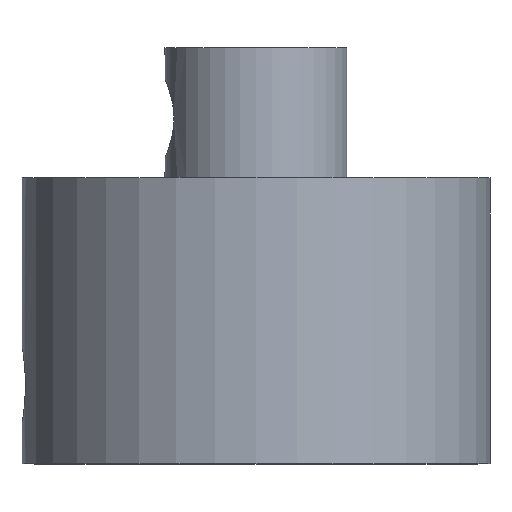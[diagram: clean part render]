
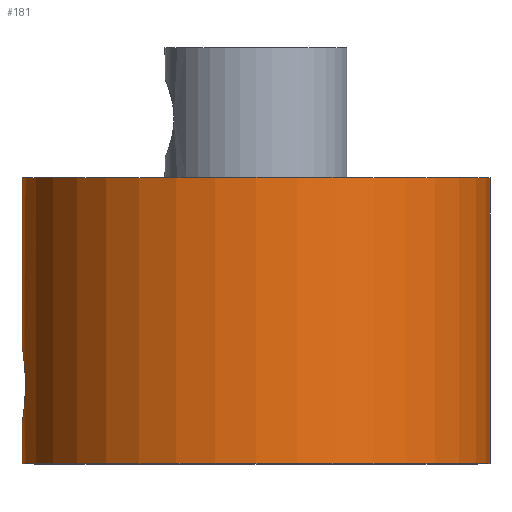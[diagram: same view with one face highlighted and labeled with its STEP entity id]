
A CAD part, top view. The second image highlights one B-rep face of the part: STEP entity #181.
In plain terms, the highlighted cylindrical face has radius 9 mm (diameter 18 mm), a full revolution.
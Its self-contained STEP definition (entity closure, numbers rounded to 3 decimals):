
#25=FACE_BOUND('',#61,.T.);
#31=CIRCLE('',#207,9.);
#34=CIRCLE('',#214,9.);
#44=FACE_OUTER_BOUND('',#60,.T.);
#60=EDGE_LOOP('',(#158,#159,#160,#161));
#61=EDGE_LOOP('',(#162,#163));
#69=LINE('',#464,#75);
#75=VECTOR('',#259,9.);
#80=B_SPLINE_CURVE_WITH_KNOTS('',3,(#361,#362,#363,#364,#365,#366,#367,
#368,#369,#370,#371,#372,#373,#374,#375,#376,#377,#378),.UNSPECIFIED.,.F.,
 .F.,(4,2,2,2,2,2,2,2,4),(0.226,0.283,0.34,
0.396,0.453,0.51,0.566,
0.623,0.679),.UNSPECIFIED.);
#81=B_SPLINE_CURVE_WITH_KNOTS('',3,(#379,#380,#381,#382,#383,#384,#385,
#386,#387,#388,#389,#390,#391,#392,#393,#394,#395,#396,#397),
 .UNSPECIFIED.,.F.,.F.,(4,2,2,2,3,2,2,2,4),(0.679,0.736,
0.793,0.849,0.906,0.962,
1.019,1.076,1.132),.UNSPECIFIED.);
#88=VERTEX_POINT('',#359);
#89=VERTEX_POINT('',#360);
#96=VERTEX_POINT('',#451);
#99=VERTEX_POINT('',#462);
#105=EDGE_CURVE('',#88,#89,#80,.T.);
#106=EDGE_CURVE('',#89,#88,#81,.T.);
#116=EDGE_CURVE('',#96,#96,#31,.T.);
#120=EDGE_CURVE('',#99,#99,#34,.T.);
#121=EDGE_CURVE('',#99,#96,#69,.T.);
#158=ORIENTED_EDGE('',*,*,#120,.F.);
#159=ORIENTED_EDGE('',*,*,#121,.T.);
#160=ORIENTED_EDGE('',*,*,#116,.F.);
#161=ORIENTED_EDGE('',*,*,#121,.F.);
#162=ORIENTED_EDGE('',*,*,#105,.T.);
#163=ORIENTED_EDGE('',*,*,#106,.T.);
#171=CYLINDRICAL_SURFACE('',#213,9.);
#181=ADVANCED_FACE('',(#44,#25),#171,.T.);
#207=AXIS2_PLACEMENT_3D('',#452,#242,#243);
#213=AXIS2_PLACEMENT_3D('',#461,#255,#256);
#214=AXIS2_PLACEMENT_3D('',#463,#257,#258);
#242=DIRECTION('center_axis',(0.,1.,0.));
#243=DIRECTION('ref_axis',(-1.,0.,0.));
#255=DIRECTION('center_axis',(0.,-1.,0.));
#256=DIRECTION('ref_axis',(-1.,0.,0.));
#257=DIRECTION('center_axis',(0.,-1.,0.));
#258=DIRECTION('ref_axis',(-1.,0.,0.));
#259=DIRECTION('',(0.,1.,0.));
#359=CARTESIAN_POINT('',(10.493,11.737,-36.672));
#360=CARTESIAN_POINT('',(10.493,14.737,-36.672));
#361=CARTESIAN_POINT('Ctrl Pts',(10.493,11.737,-36.672));
#362=CARTESIAN_POINT('Ctrl Pts',(10.493,11.737,-36.861));
#363=CARTESIAN_POINT('Ctrl Pts',(10.5,11.774,-37.062));
#364=CARTESIAN_POINT('Ctrl Pts',(10.523,11.928,-37.431));
#365=CARTESIAN_POINT('Ctrl Pts',(10.54,12.043,-37.6));
#366=CARTESIAN_POINT('Ctrl Pts',(10.572,12.309,-37.866));
#367=CARTESIAN_POINT('Ctrl Pts',(10.588,12.477,-37.981));
#368=CARTESIAN_POINT('Ctrl Pts',(10.612,12.847,-38.134));
#369=CARTESIAN_POINT('Ctrl Pts',(10.619,13.048,-38.172));
#370=CARTESIAN_POINT('Ctrl Pts',(10.619,13.425,-38.172));
#371=CARTESIAN_POINT('Ctrl Pts',(10.612,13.626,-38.134));
#372=CARTESIAN_POINT('Ctrl Pts',(10.588,13.996,-37.981));
#373=CARTESIAN_POINT('Ctrl Pts',(10.572,14.164,-37.866));
#374=CARTESIAN_POINT('Ctrl Pts',(10.54,14.43,-37.6));
#375=CARTESIAN_POINT('Ctrl Pts',(10.523,14.546,-37.431));
#376=CARTESIAN_POINT('Ctrl Pts',(10.5,14.699,-37.062));
#377=CARTESIAN_POINT('Ctrl Pts',(10.493,14.737,-36.861));
#378=CARTESIAN_POINT('Ctrl Pts',(10.493,14.737,-36.672));
#379=CARTESIAN_POINT('Ctrl Pts',(10.493,14.737,-36.672));
#380=CARTESIAN_POINT('Ctrl Pts',(10.493,14.737,-36.483));
#381=CARTESIAN_POINT('Ctrl Pts',(10.5,14.699,-36.282));
#382=CARTESIAN_POINT('Ctrl Pts',(10.523,14.546,-35.913));
#383=CARTESIAN_POINT('Ctrl Pts',(10.54,14.43,-35.745));
#384=CARTESIAN_POINT('Ctrl Pts',(10.572,14.164,-35.479));
#385=CARTESIAN_POINT('Ctrl Pts',(10.588,13.996,-35.363));
#386=CARTESIAN_POINT('Ctrl Pts',(10.612,13.626,-35.21));
#387=CARTESIAN_POINT('Ctrl Pts',(10.619,13.425,-35.172));
#388=CARTESIAN_POINT('Ctrl Pts',(10.619,13.237,-35.172));
#389=CARTESIAN_POINT('Ctrl Pts',(10.619,13.048,-35.172));
#390=CARTESIAN_POINT('Ctrl Pts',(10.612,12.847,-35.21));
#391=CARTESIAN_POINT('Ctrl Pts',(10.588,12.477,-35.363));
#392=CARTESIAN_POINT('Ctrl Pts',(10.572,12.309,-35.479));
#393=CARTESIAN_POINT('Ctrl Pts',(10.54,12.043,-35.745));
#394=CARTESIAN_POINT('Ctrl Pts',(10.523,11.928,-35.913));
#395=CARTESIAN_POINT('Ctrl Pts',(10.5,11.774,-36.282));
#396=CARTESIAN_POINT('Ctrl Pts',(10.493,11.737,-36.483));
#397=CARTESIAN_POINT('Ctrl Pts',(10.493,11.737,-36.672));
#451=CARTESIAN_POINT('',(28.493,21.2,-36.672));
#452=CARTESIAN_POINT('Origin',(19.493,21.2,-36.672));
#461=CARTESIAN_POINT('Origin',(19.493,20.2,-36.672));
#462=CARTESIAN_POINT('',(28.493,10.2,-36.672));
#463=CARTESIAN_POINT('Origin',(19.493,10.2,-36.672));
#464=CARTESIAN_POINT('',(28.493,20.2,-36.672));
